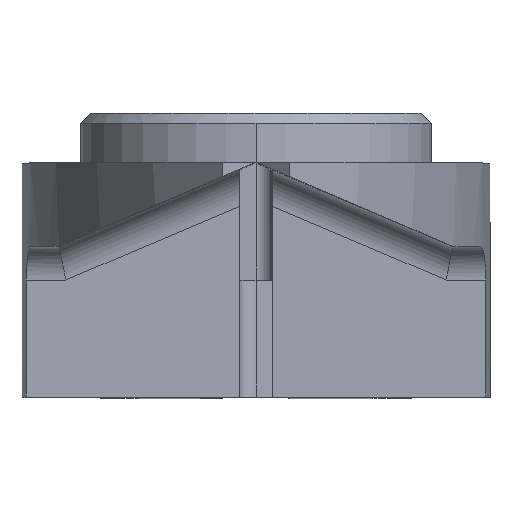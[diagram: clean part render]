
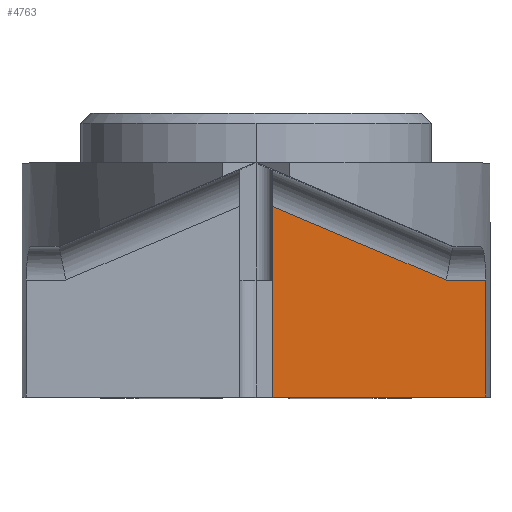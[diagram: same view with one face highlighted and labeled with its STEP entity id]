
A CAD part, top view. The second image highlights one B-rep face of the part: STEP entity #4763.
In plain terms, the highlighted planar face has unit normal (0, 0, 1).
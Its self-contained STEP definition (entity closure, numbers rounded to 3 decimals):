
#228 = CARTESIAN_POINT ( 'NONE',  ( 5.686, 3.5, 9. ) ) ;
#277 = LINE ( 'NONE', #4565, #1252 ) ;
#302 = VERTEX_POINT ( 'NONE', #3586 ) ;
#374 = ORIENTED_EDGE ( 'NONE', *, *, #2199, .T. ) ;
#418 = EDGE_CURVE ( 'NONE', #4719, #4321, #1257, .T. ) ;
#495 = VECTOR ( 'NONE', #606, 1000. ) ;
#606 = DIRECTION ( 'NONE',  ( -0.921, 0.391, 0. ) ) ;
#625 = LINE ( 'NONE', #228, #495 ) ;
#824 = VERTEX_POINT ( 'NONE', #2983 ) ;
#837 = DIRECTION ( 'NONE',  ( -1., 0., 0. ) ) ;
#910 = EDGE_CURVE ( 'NONE', #4147, #824, #2719, .T. ) ;
#1005 = EDGE_CURVE ( 'NONE', #824, #4321, #277, .T. ) ;
#1157 = CARTESIAN_POINT ( 'NONE',  ( 6.869, 3.5, 9. ) ) ;
#1252 = VECTOR ( 'NONE', #837, 1000. ) ;
#1257 = LINE ( 'NONE', #2207, #2020 ) ;
#1392 = DIRECTION ( 'NONE',  ( 0., -1., 0. ) ) ;
#1424 = ORIENTED_EDGE ( 'NONE', *, *, #418, .T. ) ;
#1522 = CARTESIAN_POINT ( 'NONE',  ( 3.685, 3.5, 9. ) ) ;
#1608 = VECTOR ( 'NONE', #1392, 1000. ) ;
#2020 = VECTOR ( 'NONE', #3536, 1000. ) ;
#2158 = DIRECTION ( 'NONE',  ( 0., 0., 1. ) ) ;
#2177 = FACE_OUTER_BOUND ( 'NONE', #3753, .T. ) ;
#2199 = EDGE_CURVE ( 'NONE', #4147, #302, #3795, .T. ) ;
#2207 = CARTESIAN_POINT ( 'NONE',  ( 0.5, 2.868, 9. ) ) ;
#2288 = DIRECTION ( 'NONE',  ( -1., 0., 0. ) ) ;
#2422 = ORIENTED_EDGE ( 'NONE', *, *, #910, .F. ) ;
#2685 = ORIENTED_EDGE ( 'NONE', *, *, #3100, .T. ) ;
#2719 = LINE ( 'NONE', #1157, #1608 ) ;
#2983 = CARTESIAN_POINT ( 'NONE',  ( 6.869, 0., 9. ) ) ;
#3100 = EDGE_CURVE ( 'NONE', #302, #4719, #625, .T. ) ;
#3187 = CARTESIAN_POINT ( 'NONE',  ( 0.5, 0., 9. ) ) ;
#3202 = PLANE ( 'NONE',  #4690 ) ;
#3262 = ORIENTED_EDGE ( 'NONE', *, *, #1005, .F. ) ;
#3536 = DIRECTION ( 'NONE',  ( 0., -1., 0. ) ) ;
#3586 = CARTESIAN_POINT ( 'NONE',  ( 5.686, 3.5, 9. ) ) ;
#3753 = EDGE_LOOP ( 'NONE', ( #3262, #2422, #374, #2685, #1424 ) ) ;
#3795 = LINE ( 'NONE', #1522, #4802 ) ;
#4147 = VERTEX_POINT ( 'NONE', #4739 ) ;
#4321 = VERTEX_POINT ( 'NONE', #3187 ) ;
#4405 = CARTESIAN_POINT ( 'NONE',  ( 0.5, 0., 9. ) ) ;
#4565 = CARTESIAN_POINT ( 'NONE',  ( 3.73, 0., 9. ) ) ;
#4656 = CARTESIAN_POINT ( 'NONE',  ( 0.5, 5.701, 9. ) ) ;
#4690 = AXIS2_PLACEMENT_3D ( 'NONE', #4405, #2158, #4779 ) ;
#4719 = VERTEX_POINT ( 'NONE', #4656 ) ;
#4739 = CARTESIAN_POINT ( 'NONE',  ( 6.869, 3.5, 9. ) ) ;
#4763 = ADVANCED_FACE ( 'NONE', ( #2177 ), #3202, .T. ) ;
#4779 = DIRECTION ( 'NONE',  ( 1., 0., 0. ) ) ;
#4802 = VECTOR ( 'NONE', #2288, 1000. ) ;
